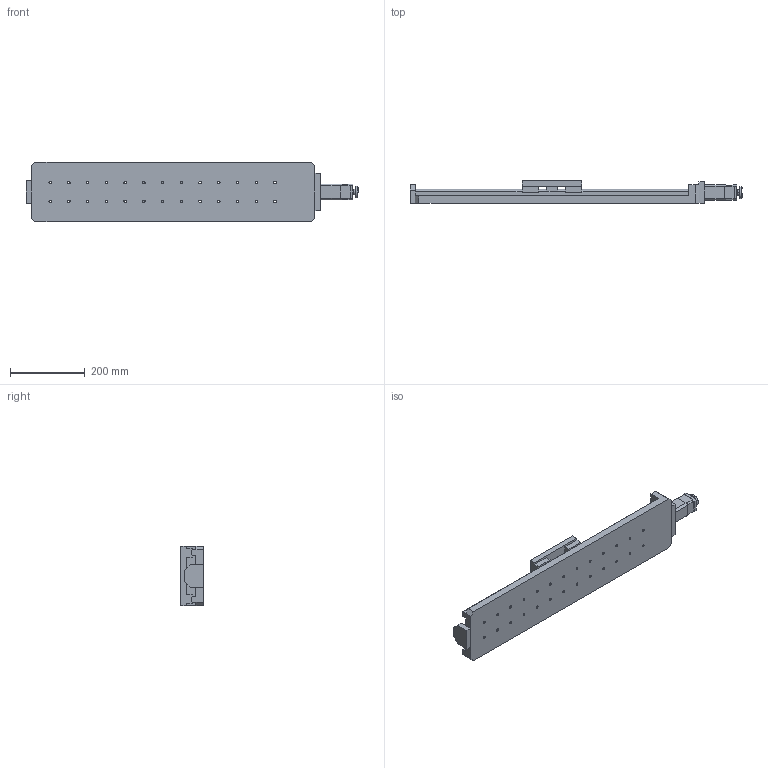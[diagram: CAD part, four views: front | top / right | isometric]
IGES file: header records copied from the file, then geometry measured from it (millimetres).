
Start section: SolidWorks IGES file using analytic representation for surfaces
Global section: file name: C:\Users\dubin\Desktop\9.18\PT-GD140G(500)\PT-GD140G(400).IGS; native system: SolidWorks 2017; preprocessor: SolidWorks 2017; author: PDV; date: 220918.135449; units: millimetre
Bounding box: 886 x 61 x 160 mm (x, y, z)
Surface area: 472338 mm2 (no closed solid volume)
Topology: 0 solids, 0 shells, 496 faces, 7768 edges, 7728 vertices
Faces by surface type: revolution 312, bspline 184
